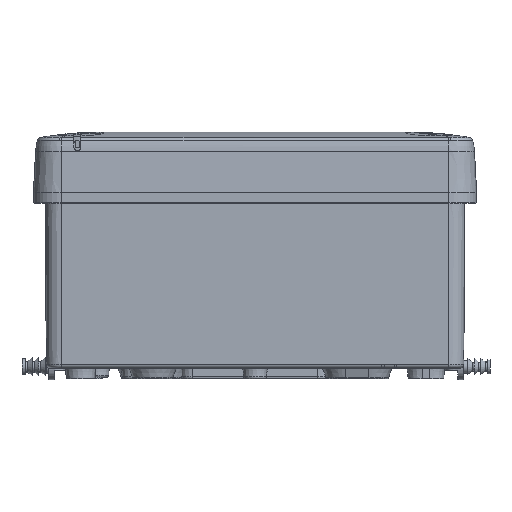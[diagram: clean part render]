
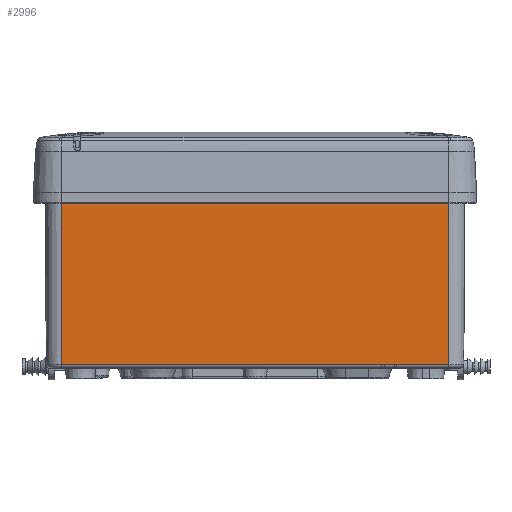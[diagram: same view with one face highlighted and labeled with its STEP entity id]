
A CAD part, front view. The second image highlights one B-rep face of the part: STEP entity #2996.
In plain terms, the highlighted planar face has unit normal (0, -1, -0.006).
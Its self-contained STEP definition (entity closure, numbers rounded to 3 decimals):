
#2996=ADVANCED_FACE('',(#5152),#4224,.T.);
#4224=PLANE('',#26196);
#5152=FACE_OUTER_BOUND('',#6516,.T.);
#6516=EDGE_LOOP('',(#10370,#10371,#10372,#10373));
#10370=ORIENTED_EDGE('',*,*,#18212,.T.);
#10371=ORIENTED_EDGE('',*,*,#19083,.T.);
#10372=ORIENTED_EDGE('',*,*,#19010,.F.);
#10373=ORIENTED_EDGE('',*,*,#19081,.F.);
#15461=VERTEX_POINT('',#35339);
#15529=VERTEX_POINT('',#35994);
#16146=VERTEX_POINT('',#40956);
#16154=VERTEX_POINT('',#40976);
#18212=EDGE_CURVE('',#15461,#15529,#21783,.T.);
#19010=EDGE_CURVE('',#16154,#16146,#22297,.T.);
#19081=EDGE_CURVE('',#15461,#16154,#22356,.T.);
#19083=EDGE_CURVE('',#15529,#16146,#22357,.T.);
#21783=LINE('',#37296,#23790);
#22297=LINE('',#40977,#24304);
#22356=LINE('',#41136,#24363);
#22357=LINE('',#41145,#24364);
#23790=VECTOR('',#28562,1.);
#24304=VECTOR('',#30120,1.);
#24363=VECTOR('',#30245,1.);
#24364=VECTOR('',#30248,1.);
#26196=AXIS2_PLACEMENT_3D('',#41146,#30249,#30250);
#28562=DIRECTION('',(-1.,0.,0.));
#30120=DIRECTION('',(-1.,0.,0.));
#30245=DIRECTION('',(0.,0.006,-1.));
#30248=DIRECTION('',(0.,0.006,-1.));
#30249=DIRECTION('',(0.,-1.,-0.006));
#30250=DIRECTION('',(-1.,0.,0.));
#35339=CARTESIAN_POINT('',(50.1,-56.353,43.09));
#35994=CARTESIAN_POINT('',(-52.1,-56.353,43.09));
#37296=CARTESIAN_POINT('',(50.1,-56.353,43.09));
#40956=CARTESIAN_POINT('',(-52.1,-56.106,0.594));
#40976=CARTESIAN_POINT('',(50.1,-56.106,0.594));
#40977=CARTESIAN_POINT('',(50.1,-56.106,0.594));
#41136=CARTESIAN_POINT('',(50.1,-56.353,43.09));
#41145=CARTESIAN_POINT('',(-52.1,-56.353,43.09));
#41146=CARTESIAN_POINT('',(-52.101,-56.1,-0.401));
